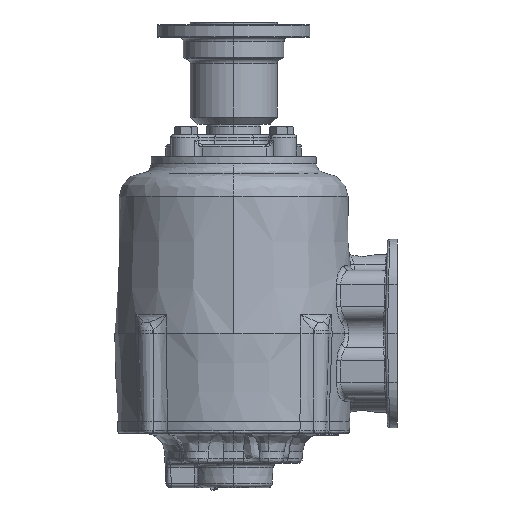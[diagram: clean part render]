
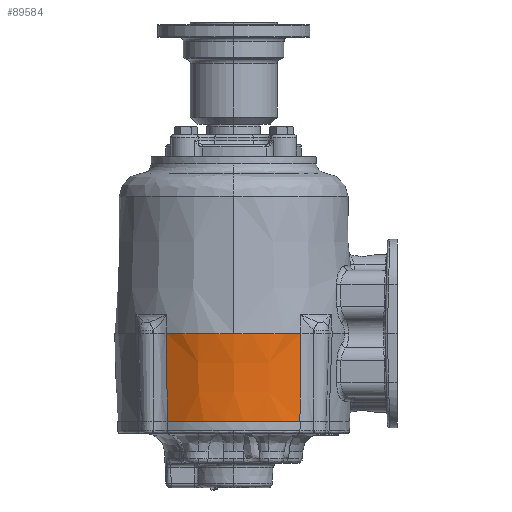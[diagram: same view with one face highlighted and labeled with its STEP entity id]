
A CAD part, left-side view. The second image highlights one B-rep face of the part: STEP entity #89584.
In plain terms, the highlighted conical face has half-angle 2 degrees and reference radius 78.232 mm.
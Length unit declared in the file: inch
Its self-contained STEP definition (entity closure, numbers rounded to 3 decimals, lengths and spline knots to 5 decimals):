
#49 = DIRECTION ( 'NONE',  ( 0., 0., -1. ) ) ;
#1354 = ORIENTED_EDGE ( 'NONE', *, *, #81098, .F. ) ;
#1512 = AXIS2_PLACEMENT_3D ( 'NONE', #16725, #105215, #75996 ) ;
#4696 = VERTEX_POINT ( 'NONE', #146981 ) ;
#6188 = FACE_OUTER_BOUND ( 'NONE', #175350, .T. ) ;
#13415 = AXIS2_PLACEMENT_3D ( 'NONE', #74976, #21233, #119206 ) ;
#16725 = CARTESIAN_POINT ( 'NONE',  ( -1.25, 3.3296, 0. ) ) ;
#21233 = DIRECTION ( 'NONE',  ( 0., 0., 1. ) ) ;
#25790 = CARTESIAN_POINT ( 'NONE',  ( -3.74025, 1.60953, -1.53104 ) ) ;
#28572 = CARTESIAN_POINT ( 'NONE',  ( -3.79389, 1.59322, 0. ) ) ;
#32343 = AXIS2_PLACEMENT_3D ( 'NONE', #125983, #85500, #129717 ) ;
#34891 = CARTESIAN_POINT ( 'NONE',  ( -3.71437, 5.04203, -2.2645 ) ) ;
#36219 = ORIENTED_EDGE ( 'NONE', *, *, #51766, .F. ) ;
#46157 = DIRECTION ( 'NONE',  ( 1., 0., 0. ) ) ;
#47080 = CARTESIAN_POINT ( 'NONE',  ( -1.25, 3.3296, -2.2645 ) ) ;
#50437 = CARTESIAN_POINT ( 'NONE',  ( -3.71437, 1.61717, -2.2645 ) ) ;
#51403 = CARTESIAN_POINT ( 'NONE',  ( -3.71437, 5.04203, -2.2645 ) ) ;
#51766 = EDGE_CURVE ( 'NONE', #4696, #178104, #125500, .T. ) ;
#58951 = EDGE_CURVE ( 'NONE', #60183, #88857, #167884, .T. ) ;
#60183 = VERTEX_POINT ( 'NONE', #93681 ) ;
#60449 = EDGE_CURVE ( 'NONE', #177996, #178104, #176557, .T. ) ;
#74976 = CARTESIAN_POINT ( 'NONE',  ( -1.25, 3.3296, 0. ) ) ;
#75996 = DIRECTION ( 'NONE',  ( 1., 0., 0. ) ) ;
#80267 = EDGE_CURVE ( 'NONE', #60183, #4696, #100626, .T. ) ;
#80816 = ORIENTED_EDGE ( 'NONE', *, *, #60449, .T. ) ;
#81098 = EDGE_CURVE ( 'NONE', #177996, #88857, #91771, .T. ) ;
#85500 = DIRECTION ( 'NONE',  ( 0., 0., 1. ) ) ;
#88857 = VERTEX_POINT ( 'NONE', #34891 ) ;
#89584 = ADVANCED_FACE ( 'NONE', ( #6188 ), #94589, .T. ) ;
#91771 = CIRCLE ( 'NONE', #112854, 3.00092 ) ;
#93681 = CARTESIAN_POINT ( 'NONE',  ( -3.79389, 5.06598, 0. ) ) ;
#94589 = CONICAL_SURFACE ( 'NONE', #13415, 3.08, 0.035 ) ;
#100626 = CIRCLE ( 'NONE', #1512, 3.08 ) ;
#105215 = DIRECTION ( 'NONE',  ( 0., 0., 1. ) ) ;
#112854 = AXIS2_PLACEMENT_3D ( 'NONE', #47080, #49, #46157 ) ;
#119206 = DIRECTION ( 'NONE',  ( 1., 0., 0. ) ) ;
#122434 = ORIENTED_EDGE ( 'NONE', *, *, #58951, .T. ) ;
#125500 = CIRCLE ( 'NONE', #32343, 3.08 ) ;
#125983 = CARTESIAN_POINT ( 'NONE',  ( -1.25, 3.3296, 0. ) ) ;
#129717 = DIRECTION ( 'NONE',  ( 1., 0., 0. ) ) ;
#139899 = CARTESIAN_POINT ( 'NONE',  ( -3.79389, 5.06598, 0. ) ) ;
#146981 = CARTESIAN_POINT ( 'NONE',  ( -4.33, 3.3296, 0. ) ) ;
#151235 = CARTESIAN_POINT ( 'NONE',  ( -3.74025, 5.04967, -1.53104 ) ) ;
#154833 = CARTESIAN_POINT ( 'NONE',  ( -3.71437, 1.61717, -2.2645 ) ) ;
#157615 = CARTESIAN_POINT ( 'NONE',  ( -3.76676, 1.60154, -0.77621 ) ) ;
#166589 = ORIENTED_EDGE ( 'NONE', *, *, #80267, .F. ) ;
#167884 = B_SPLINE_CURVE_WITH_KNOTS ( 'NONE', 3,
 ( #139899, #179553, #151235, #51403 ),
 .UNSPECIFIED., .F., .F.,
 ( 4, 4 ),
 ( 0., 1. ),
 .UNSPECIFIED. ) ;
#170043 = CARTESIAN_POINT ( 'NONE',  ( -3.79389, 1.59322, 0. ) ) ;
#175350 = EDGE_LOOP ( 'NONE', ( #166589, #122434, #1354, #80816, #36219 ) ) ;
#176557 = B_SPLINE_CURVE_WITH_KNOTS ( 'NONE', 3,
 ( #154833, #25790, #157615, #28572 ),
 .UNSPECIFIED., .F., .F.,
 ( 4, 4 ),
 ( 0., 1. ),
 .UNSPECIFIED. ) ;
#177996 = VERTEX_POINT ( 'NONE', #50437 ) ;
#178104 = VERTEX_POINT ( 'NONE', #170043 ) ;
#179553 = CARTESIAN_POINT ( 'NONE',  ( -3.76676, 5.05766, -0.77621 ) ) ;
